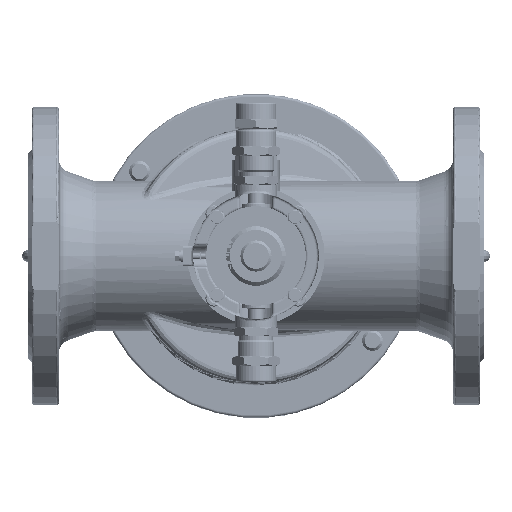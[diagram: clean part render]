
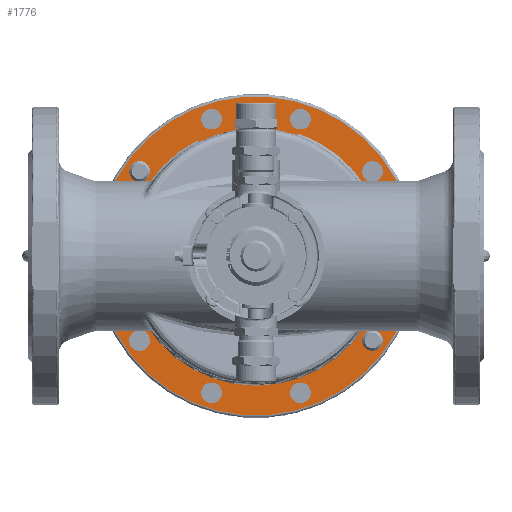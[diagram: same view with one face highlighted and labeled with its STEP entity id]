
A CAD part, front view. The second image highlights one B-rep face of the part: STEP entity #1776.
In plain terms, the highlighted planar face has unit normal (0, -1, 0).
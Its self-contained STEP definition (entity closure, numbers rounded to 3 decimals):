
#1776=ADVANCED_FACE('',(#45556,#45558,#45560,#45562,#45564,#45566,#45568,#45570,
#45572,#45574),#45576,.F.);
#45556=FACE_BOUND('',#45557,.T.);
#45557=EDGE_LOOP('',(#88864));
#45558=FACE_BOUND('',#45559,.T.);
#45559=EDGE_LOOP('',(#88865));
#45560=FACE_BOUND('',#45561,.T.);
#45561=EDGE_LOOP('',(#88866));
#45562=FACE_BOUND('',#45563,.T.);
#45563=EDGE_LOOP('',(#88867));
#45564=FACE_BOUND('',#45565,.T.);
#45565=EDGE_LOOP('',(#88868,#88869,#88870,#88871,#88872));
#45566=FACE_BOUND('',#45567,.T.);
#45567=EDGE_LOOP('',(#88873));
#45568=FACE_BOUND('',#45569,.T.);
#45569=EDGE_LOOP('',(#88874));
#45570=FACE_BOUND('',#45571,.T.);
#45571=EDGE_LOOP('',(#88875));
#45572=FACE_BOUND('',#45573,.T.);
#45573=EDGE_LOOP('',(#88876));
#45574=FACE_OUTER_BOUND('',#45575,.T.);
#45575=EDGE_LOOP('',(#88877,#88878,#88879,#88880));
#45576=PLANE('',#45577);
#45577=AXIS2_PLACEMENT_3D('',#45578,#45579,#45580);
#45578=CARTESIAN_POINT('',(125.,74.,0.));
#45579=DIRECTION('',(0.,1.,0.));
#45580=DIRECTION('',(-1.,0.,0.));
#88864=ORIENTED_EDGE('',*,*,#111772,.F.);
#88865=ORIENTED_EDGE('',*,*,#111773,.F.);
#88866=ORIENTED_EDGE('',*,*,#111774,.F.);
#88867=ORIENTED_EDGE('',*,*,#111775,.F.);
#88868=ORIENTED_EDGE('',*,*,#111771,.T.);
#88869=ORIENTED_EDGE('',*,*,#111769,.T.);
#88870=ORIENTED_EDGE('',*,*,#111776,.T.);
#88871=ORIENTED_EDGE('',*,*,#111651,.T.);
#88872=ORIENTED_EDGE('',*,*,#111649,.T.);
#88873=ORIENTED_EDGE('',*,*,#111777,.F.);
#88874=ORIENTED_EDGE('',*,*,#111778,.F.);
#88875=ORIENTED_EDGE('',*,*,#111779,.F.);
#88876=ORIENTED_EDGE('',*,*,#111780,.F.);
#88877=ORIENTED_EDGE('',*,*,#111781,.T.);
#88878=ORIENTED_EDGE('',*,*,#111782,.T.);
#88879=ORIENTED_EDGE('',*,*,#111783,.T.);
#88880=ORIENTED_EDGE('',*,*,#111784,.T.);
#111649=EDGE_CURVE('',#125541,#125539,#125542,.T.);
#111651=EDGE_CURVE('',#125544,#125541,#125545,.T.);
#111769=EDGE_CURVE('',#125741,#125739,#125742,.T.);
#111771=EDGE_CURVE('',#125539,#125741,#125744,.T.);
#111772=EDGE_CURVE('',#125745,#125745,#125746,.T.);
#111773=EDGE_CURVE('',#125747,#125747,#125748,.T.);
#111774=EDGE_CURVE('',#125749,#125749,#125750,.T.);
#111775=EDGE_CURVE('',#125751,#125751,#125752,.T.);
#111776=EDGE_CURVE('',#125739,#125544,#125753,.T.);
#111777=EDGE_CURVE('',#125754,#125754,#125755,.T.);
#111778=EDGE_CURVE('',#125756,#125756,#125757,.T.);
#111779=EDGE_CURVE('',#125758,#125758,#125759,.T.);
#111780=EDGE_CURVE('',#125760,#125760,#125761,.T.);
#111781=EDGE_CURVE('',#125762,#125763,#125764,.T.);
#111782=EDGE_CURVE('',#125763,#125765,#125766,.T.);
#111783=EDGE_CURVE('',#125765,#125767,#125768,.T.);
#111784=EDGE_CURVE('',#125767,#125762,#125769,.T.);
#125539=VERTEX_POINT('',#166060);
#125541=VERTEX_POINT('',#166071);
#125542=CIRCLE('',#166072,100.);
#125544=VERTEX_POINT('',#166080);
#125545=CIRCLE('',#166081,100.);
#125739=VERTEX_POINT('',#167724);
#125741=VERTEX_POINT('',#167728);
#125742=CIRCLE('',#167729,98.5);
#125744=LINE('',#167736,#167737);
#125745=VERTEX_POINT('',#167739);
#125746=CIRCLE('',#167740,8.);
#125747=VERTEX_POINT('',#167744);
#125748=CIRCLE('',#167745,8.);
#125749=VERTEX_POINT('',#167749);
#125750=CIRCLE('',#167750,8.);
#125751=VERTEX_POINT('',#167754);
#125752=CIRCLE('',#167755,8.);
#125753=LINE('',#167759,#167760);
#125754=VERTEX_POINT('',#167762);
#125755=CIRCLE('',#167763,8.);
#125756=VERTEX_POINT('',#167767);
#125757=CIRCLE('',#167768,8.);
#125758=VERTEX_POINT('',#167772);
#125759=CIRCLE('',#167773,8.);
#125760=VERTEX_POINT('',#167777);
#125761=CIRCLE('',#167778,8.);
#125762=VERTEX_POINT('',#167782);
#125763=VERTEX_POINT('',#167783);
#125764=CIRCLE('',#167784,123.);
#125765=VERTEX_POINT('',#167788);
#125766=LINE('',#167789,#167790);
#125767=VERTEX_POINT('',#167792);
#125768=CIRCLE('',#167793,123.);
#125769=LINE('',#167797,#167798);
#166060=CARTESIAN_POINT('',(-44.859,74.,89.374));
#166071=CARTESIAN_POINT('',(0.,74.,-100.));
#166072=AXIS2_PLACEMENT_3D('',#166073,#166074,#166075);
#166073=CARTESIAN_POINT('',(0.,74.,0.));
#166074=DIRECTION('',(0.,1.,0.));
#166075=DIRECTION('',(0.,0.,-1.));
#166080=CARTESIAN_POINT('',(32.225,74.,94.665));
#166081=AXIS2_PLACEMENT_3D('',#166082,#166083,#166084);
#166082=CARTESIAN_POINT('',(0.,74.,0.));
#166083=DIRECTION('',(0.,1.,0.));
#166084=DIRECTION('',(0.322,0.,0.947));
#167724=CARTESIAN_POINT('',(32.225,74.,93.08));
#167728=CARTESIAN_POINT('',(-44.859,74.,87.692));
#167729=AXIS2_PLACEMENT_3D('',#167730,#167731,#167732);
#167730=CARTESIAN_POINT('',(0.,74.,0.));
#167731=DIRECTION('',(0.,1.,0.));
#167732=DIRECTION('',(-0.455,0.,0.89));
#167736=CARTESIAN_POINT('',(-44.859,74.,89.374));
#167737=VECTOR('',#167738,1.);
#167738=DIRECTION('',(0.,0.,-1.));
#167739=CARTESIAN_POINT('',(-87.329,74.,-57.636));
#167740=AXIS2_PLACEMENT_3D('',#167741,#167742,#167743);
#167741=CARTESIAN_POINT('',(-89.801,74.,-65.244));
#167742=DIRECTION('',(0.,-1.,0.));
#167743=DIRECTION('',(0.309,0.,0.951));
#167744=CARTESIAN_POINT('',(-36.773,74.,-97.959));
#167745=AXIS2_PLACEMENT_3D('',#167746,#167747,#167748);
#167746=CARTESIAN_POINT('',(-34.301,74.,-105.567));
#167747=DIRECTION('',(0.,-1.,0.));
#167748=DIRECTION('',(-0.309,0.,0.951));
#167749=CARTESIAN_POINT('',(27.829,74.,-100.865));
#167750=AXIS2_PLACEMENT_3D('',#167751,#167752,#167753);
#167751=CARTESIAN_POINT('',(34.301,74.,-105.567));
#167752=DIRECTION('',(0.,-1.,0.));
#167753=DIRECTION('',(-0.809,0.,0.588));
#167754=CARTESIAN_POINT('',(81.801,74.,-65.244));
#167755=AXIS2_PLACEMENT_3D('',#167756,#167757,#167758);
#167756=CARTESIAN_POINT('',(89.801,74.,-65.244));
#167757=DIRECTION('',(0.,-1.,0.));
#167758=DIRECTION('',(-1.,0.,0.));
#167759=CARTESIAN_POINT('',(32.225,74.,93.08));
#167760=VECTOR('',#167761,1.);
#167761=DIRECTION('',(0.,0.,1.));
#167762=CARTESIAN_POINT('',(-40.773,74.,110.27));
#167763=AXIS2_PLACEMENT_3D('',#167764,#167765,#167766);
#167764=CARTESIAN_POINT('',(-34.301,74.,105.567));
#167765=DIRECTION('',(0.,-1.,0.));
#167766=DIRECTION('',(-0.809,0.,0.588));
#167767=CARTESIAN_POINT('',(31.829,74.,113.176));
#167768=AXIS2_PLACEMENT_3D('',#167769,#167770,#167771);
#167769=CARTESIAN_POINT('',(34.301,74.,105.567));
#167770=DIRECTION('',(0.,-1.,0.));
#167771=DIRECTION('',(-0.309,0.,0.951));
#167772=CARTESIAN_POINT('',(92.273,74.,72.853));
#167773=AXIS2_PLACEMENT_3D('',#167774,#167775,#167776);
#167774=CARTESIAN_POINT('',(89.801,74.,65.244));
#167775=DIRECTION('',(0.,-1.,0.));
#167776=DIRECTION('',(0.309,0.,0.951));
#167777=CARTESIAN_POINT('',(-97.801,74.,65.244));
#167778=AXIS2_PLACEMENT_3D('',#167779,#167780,#167781);
#167779=CARTESIAN_POINT('',(-89.801,74.,65.244));
#167780=DIRECTION('',(0.,-1.,0.));
#167781=DIRECTION('',(-1.,0.,0.));
#167782=CARTESIAN_POINT('',(-108.,74.,-58.864));
#167783=CARTESIAN_POINT('',(108.,74.,-58.864));
#167784=AXIS2_PLACEMENT_3D('',#167785,#167786,#167787);
#167785=CARTESIAN_POINT('',(0.,74.,0.));
#167786=DIRECTION('',(0.,-1.,0.));
#167787=DIRECTION('',(-0.878,0.,-0.479));
#167788=CARTESIAN_POINT('',(108.,74.,58.864));
#167789=CARTESIAN_POINT('',(108.,74.,-58.864));
#167790=VECTOR('',#167791,1.);
#167791=DIRECTION('',(0.,0.,1.));
#167792=CARTESIAN_POINT('',(-108.,74.,58.864));
#167793=AXIS2_PLACEMENT_3D('',#167794,#167795,#167796);
#167794=CARTESIAN_POINT('',(0.,74.,0.));
#167795=DIRECTION('',(0.,-1.,0.));
#167796=DIRECTION('',(0.878,0.,0.479));
#167797=CARTESIAN_POINT('',(-108.,74.,58.864));
#167798=VECTOR('',#167799,1.);
#167799=DIRECTION('',(0.,0.,-1.));
